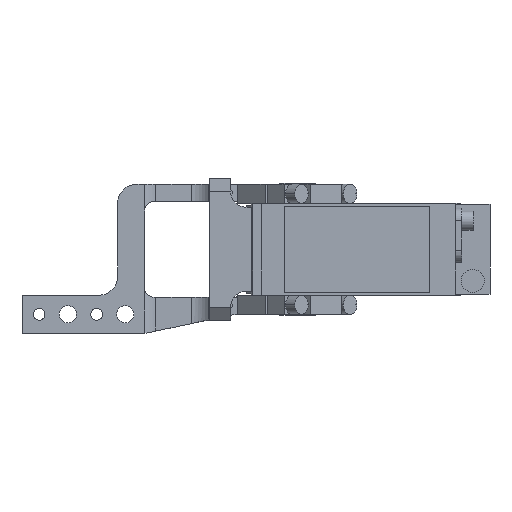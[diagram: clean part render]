
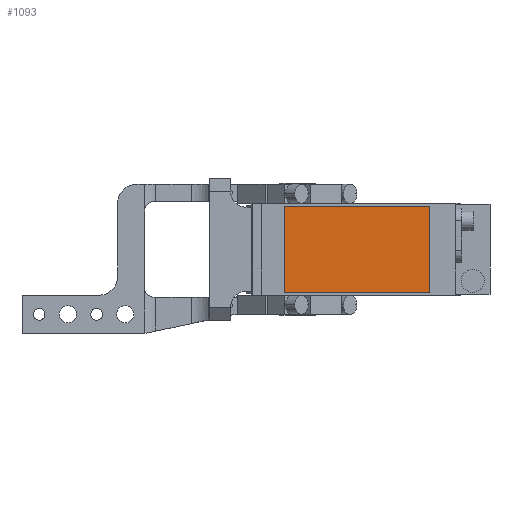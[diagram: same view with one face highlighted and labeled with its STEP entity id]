
A CAD part, front view. The second image highlights one B-rep face of the part: STEP entity #1093.
In plain terms, the highlighted planar face has unit normal (0, -1, 0).
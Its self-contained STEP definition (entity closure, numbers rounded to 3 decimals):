
#870 = VERTEX_POINT ( 'NONE', #10826 ) ;
#982 = AXIS2_PLACEMENT_3D ( 'NONE', #12410, #10209, #9030 ) ;
#1093 = ADVANCED_FACE ( 'NONE', ( #4201 ), #5283, .T. ) ;
#1511 = VERTEX_POINT ( 'NONE', #12213 ) ;
#2752 = DIRECTION ( 'NONE',  ( -1., 0., 0. ) ) ;
#3206 = LINE ( 'NONE', #3420, #10590 ) ;
#3221 = EDGE_CURVE ( 'NONE', #1511, #13110, #5119, .T. ) ;
#3391 = VERTEX_POINT ( 'NONE', #9031 ) ;
#3420 = CARTESIAN_POINT ( 'NONE',  ( -7., -280.5, 22.5 ) ) ;
#3813 = CARTESIAN_POINT ( 'NONE',  ( -7., -280.5, -22.5 ) ) ;
#4090 = DIRECTION ( 'NONE',  ( 0., 0., 1. ) ) ;
#4201 = FACE_OUTER_BOUND ( 'NONE', #12591, .T. ) ;
#5119 = LINE ( 'NONE', #6346, #12812 ) ;
#5283 = PLANE ( 'NONE',  #982 ) ;
#6291 = EDGE_CURVE ( 'NONE', #870, #1511, #9924, .T. ) ;
#6346 = CARTESIAN_POINT ( 'NONE',  ( -7., -280.5, 22.5 ) ) ;
#6431 = ORIENTED_EDGE ( 'NONE', *, *, #6291, .T. ) ;
#7169 = LINE ( 'NONE', #3813, #11493 ) ;
#9025 = DIRECTION ( 'NONE',  ( 0., 0., -1. ) ) ;
#9030 = DIRECTION ( 'NONE',  ( 0., 0., -1. ) ) ;
#9031 = CARTESIAN_POINT ( 'NONE',  ( -7., -280.5, -22.5 ) ) ;
#9924 = LINE ( 'NONE', #13493, #14549 ) ;
#10209 = DIRECTION ( 'NONE',  ( 0., -1., 0. ) ) ;
#10581 = EDGE_CURVE ( 'NONE', #13110, #3391, #3206, .T. ) ;
#10590 = VECTOR ( 'NONE', #9025, 1000. ) ;
#10649 = CARTESIAN_POINT ( 'NONE',  ( -7., -280.5, 22.5 ) ) ;
#10826 = CARTESIAN_POINT ( 'NONE',  ( 69., -280.5, -22.5 ) ) ;
#11493 = VECTOR ( 'NONE', #11925, 1000. ) ;
#11925 = DIRECTION ( 'NONE',  ( 1., 0., 0. ) ) ;
#12213 = CARTESIAN_POINT ( 'NONE',  ( 69., -280.5, 22.5 ) ) ;
#12410 = CARTESIAN_POINT ( 'NONE',  ( 0., -280.5, 0. ) ) ;
#12591 = EDGE_LOOP ( 'NONE', ( #13582, #14260, #6431, #14341 ) ) ;
#12812 = VECTOR ( 'NONE', #2752, 1000. ) ;
#13110 = VERTEX_POINT ( 'NONE', #10649 ) ;
#13111 = EDGE_CURVE ( 'NONE', #3391, #870, #7169, .T. ) ;
#13493 = CARTESIAN_POINT ( 'NONE',  ( 69., -280.5, 22.5 ) ) ;
#13582 = ORIENTED_EDGE ( 'NONE', *, *, #10581, .T. ) ;
#14260 = ORIENTED_EDGE ( 'NONE', *, *, #13111, .T. ) ;
#14341 = ORIENTED_EDGE ( 'NONE', *, *, #3221, .T. ) ;
#14549 = VECTOR ( 'NONE', #4090, 1000. ) ;
